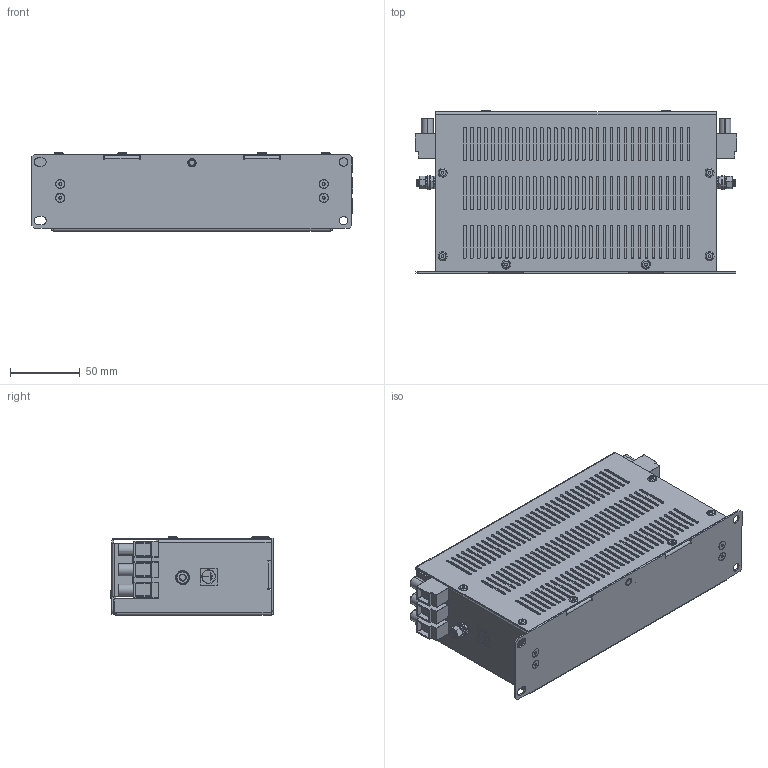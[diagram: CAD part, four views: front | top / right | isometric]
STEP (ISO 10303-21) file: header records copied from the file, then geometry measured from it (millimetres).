
FILE_DESCRIPTION (( 'STEP AP214' ), '1' );
FILE_NAME ('KMF318-25.STEP', '2015-01-20T16:02:08', ( '' ), ( '' ), 'SwSTEP 2.0', 'SolidWorks 2014', '' );
FILE_SCHEMA (( 'AUTOMOTIVE_DESIGN' ));
Length unit declared in the file: millimetre
Products named in the file (19): WSH118; TER654; NUT51_NUT51; PEM FH-M5-15 ZI--S_PEM FH-M5-15 ZI--S; KMF318-25; TAG165; WSH121; NUT52; BOX682B; Cable_2-KMF318; BOX682; PEM FH-M4-10 ZI--S_PEM FH-M4-10 ZI--S; BOX682A_TOGETHER; WSH112; NUT43; FIX119; LBL47; Cable^Cable_2-KMF318; FIX139
Assembly tree (40 placements, depth 3):
  KMF318-25
    BOX682A_TOGETHER
      BOX682
      PEM FH-M4-10 ZI--S_PEM FH-M4-10 ZI--S
      PEM FH-M5-15 ZI--S_PEM FH-M5-15 ZI--S  x2
      TER654  x2
      BOX682B
    WSH112
    NUT43
    WSH118  x4
    WSH121  x4
    NUT51_NUT51  x2
    NUT52  x2
    TER654  x2
    TAG165
    LBL47
    Cable_2-KMF318
      Cable^Cable_2-KMF318
    FIX139  x8
    FIX119  x4
Bounding box: 230.3 x 116.5 x 56.2 mm (x, y, z)
Volume: 171664 mm3; surface area: 210123.4 mm2
Topology: 48 solids, 48 shells, 2483 faces, 6619 edges, 4278 vertices
Faces by surface type: plane 1384, cylinder 712, cone 313, torus 72, bspline 2
Entity records: 51024 total; most frequent: CARTESIAN_POINT 9170, DIRECTION 8428, ORIENTED_EDGE 8184, EDGE_CURVE 4092, AXIS2_PLACEMENT_3D 2891, VECTOR 2646, LINE 2646, VERTEX_POINT 2642
